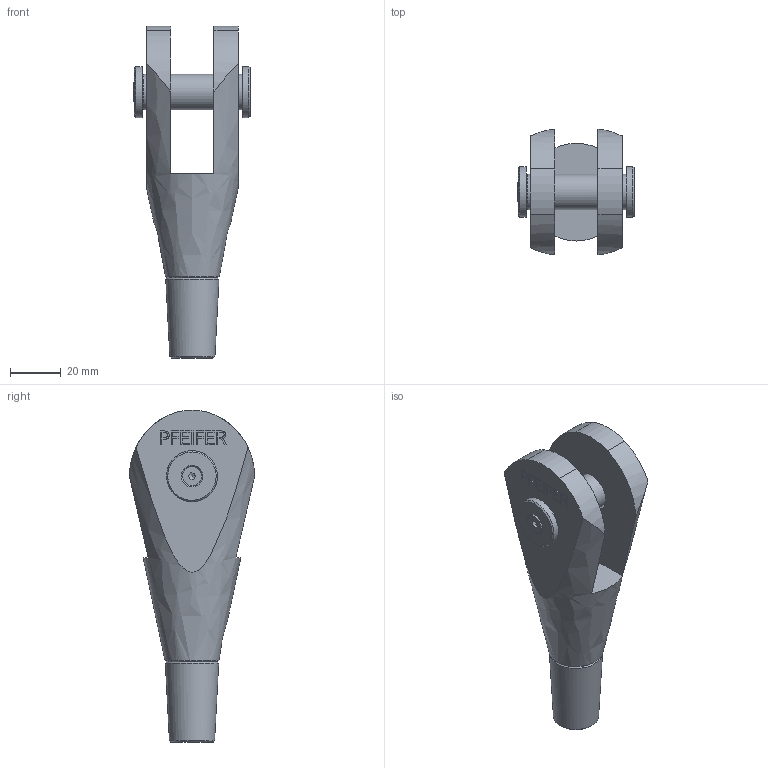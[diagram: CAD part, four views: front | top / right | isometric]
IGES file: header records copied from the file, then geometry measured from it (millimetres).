
Global section: file name: 520-014-GAK; native system: Autodesk Inventor 2016; preprocessor: unknown; author: Administrator; date: 20200625.074423; units: centimetre
Bounding box: 45.78 x 49.18 x 130.5 mm (x, y, z)
Volume: 78664.2 mm3; surface area: 22763.7 mm2
Topology: 2 solids, 3 shells, 186 faces, 491 edges, 328 vertices
Faces by surface type: bspline 186
